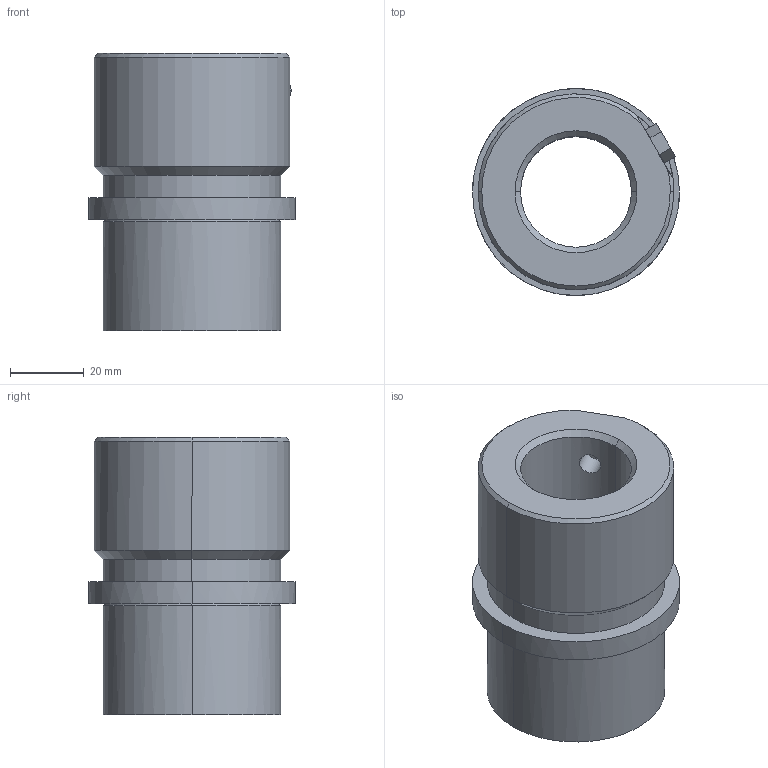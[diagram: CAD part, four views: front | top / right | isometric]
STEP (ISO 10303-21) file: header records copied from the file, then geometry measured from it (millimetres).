
FILE_DESCRIPTION(('CATIA V5 STEP Exchange'),'2;1');
FILE_NAME('C:\Users\Utente\Desktop\IO LAVORO\3D X SITO CF\X SITO\741\741-30.stp','2021-01-20T18:40:10+00:00',('none'),('none'),'CATIA Version 5 Release 20 GA (IN-10)','CATIA V5 STEP AP203','none');
FILE_SCHEMA(('CONFIG_CONTROL_DESIGN'));
Length unit declared in the file: millimetre
Products named in the file (1): 741-30
Assembly tree (1 placements, depth 2):
  741-30
    #58
Bounding box: 56 x 56 x 75 mm (x, y, z)
Volume: 98453.6 mm3; surface area: 23348.5 mm2
Topology: 1 solids, 1 shells, 42 faces, 92 edges, 57 vertices
Faces by surface type: plane 15, cylinder 14, cone 9, torus 4
Entity records: 1320 total; most frequent: CARTESIAN_POINT 357, ORIENTED_EDGE 184, DIRECTION 168, EDGE_CURVE 92, AXIS2_PLACEMENT_3D 81, VERTEX_POINT 57, EDGE_LOOP 49, VECTOR 44
